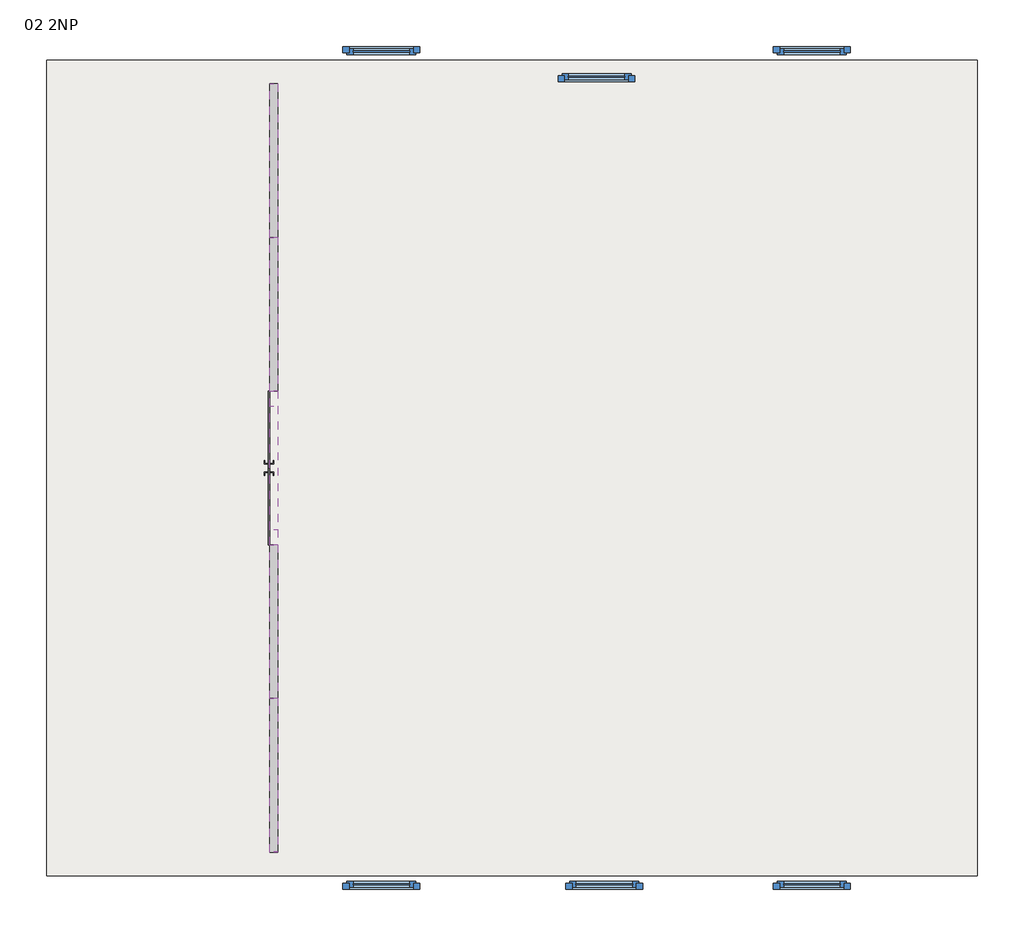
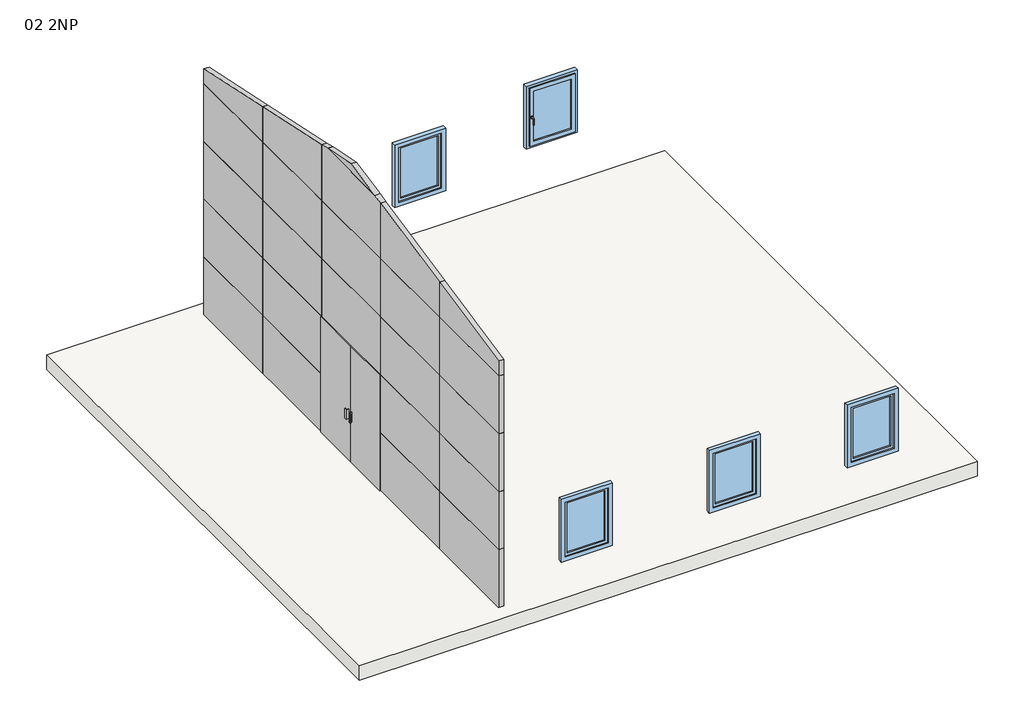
# One storey: 25 plates, 6 windows, 1 slab.
"""IFC4 building model written with IfcOpenShell, lengths in millimetres."""

import ifcopenshell
import ifcopenshell.guid

model = None  # the IFC model being written
_history = None  # IfcOwnerHistory: only IFC2X3 demands one
_inside = {}  # id of a spatial element -> (the spatial element, [elements in it])
_under = {}  # id of a project, library or spatial element -> (it, [spatial elements below it])
_declared = {}  # id of a project -> (the project, [libraries it declares])
_typed = {}  # id of a type object -> (the type object, [elements of that type])
_made_of = {}  # id of a material, layer set ... -> (it, [elements and type objects made of it])


def new_model(schema):
    """Start an empty IFC model of exactly this schema.

    Asked for "IFC4X3", IfcOpenShell would pick the latest addendum, in which some entities
    have other attributes; the version numbers below select the first issue.
    IFC2X3 requires an IfcOwnerHistory on every rooted entity: one is made here for all.
    """
    global model, _history
    if schema == "IFC4X3":
        model = ifcopenshell.file(schema_version=(4, 3, 0, 0))
    else:
        model = ifcopenshell.file(schema=schema)
    _inside.clear()
    _under.clear()
    _declared.clear()
    _typed.clear()
    _made_of.clear()
    _history = None
    if model.schema == "IFC2X3":
        org = make("IfcOrganization", Name="unknown")
        user = make(
            "IfcPersonAndOrganization",
            ThePerson=make("IfcPerson", FamilyName="unknown"),
            TheOrganization=org,
        )
        app = make(
            "IfcApplication",
            ApplicationDeveloper=org,
            Version="unknown",
            ApplicationFullName="unknown",
            ApplicationIdentifier="unknown",
        )
        _history = make(
            "IfcOwnerHistory",
            OwningUser=user,
            OwningApplication=app,
            ChangeAction="ADDED",
            CreationDate=0,
        )
    return model


def make(cls, **values):
    """One entity of the class cls with the attributes given. An attribute that is None is left unset."""
    return model.create_entity(
        cls, **{name: value for name, value in values.items() if value is not None}
    )


def rooted(cls, **values):
    """An entity with a GlobalId (a new one), such as an element, a storey or a relation."""
    return make(cls, GlobalId=ifcopenshell.guid.new(), OwnerHistory=_history, **values)


def si_unit(unit_type, name, prefix=None):
    """IfcSIUnit, for example si_unit("LENGTHUNIT", "METRE", prefix="MILLI")."""
    return make("IfcSIUnit", UnitType=unit_type, Prefix=prefix, Name=name)


def assignment(units):
    """IfcUnitAssignment: the units of a project."""
    return None if units is None else make("IfcUnitAssignment", Units=units)


def point(xyz):
    """IfcCartesianPoint."""
    return None if xyz is None else make("IfcCartesianPoint", Coordinates=xyz)


def direction(xyz):
    """IfcDirection."""
    return None if xyz is None else make("IfcDirection", DirectionRatios=xyz)


def frame(location, z_axis=None, x_axis=None):
    """IfcAxis2Placement3D, a coordinate frame: its origin and axes. An axis left out is left unset."""
    return make(
        "IfcAxis2Placement3D",
        Location=point(location),
        Axis=direction(z_axis),
        RefDirection=direction(x_axis),
    )


def frame_2d(location, x_axis=None):
    """IfcAxis2Placement2D, a coordinate frame in the plane: its origin and x axis."""
    return make(
        "IfcAxis2Placement2D", Location=point(location), RefDirection=direction(x_axis)
    )


def origin():
    """The frame at (0, 0, 0) with its axes left unset."""
    return frame((0.0, 0.0, 0.0))


def origin_with_axes():
    """The frame at (0, 0, 0) with the z axis (0, 0, 1) and the x axis (1, 0, 0) written out."""
    return frame((0.0, 0.0, 0.0), z_axis=(0.0, 0.0, 1.0), x_axis=(1.0, 0.0, 0.0))


def place(relative_to, where):
    """IfcLocalPlacement: puts the frame where relative to a parent placement (None: the world)."""
    return make(
        "IfcLocalPlacement", PlacementRelTo=relative_to, RelativePlacement=where
    )


def context(
    kind, dimensions, precision=None, world=None, true_north=None, identifier=None
):
    """IfcGeometricRepresentationContext, for example the 3D "Model" context."""
    return make(
        "IfcGeometricRepresentationContext",
        ContextIdentifier=identifier,
        ContextType=kind,
        CoordinateSpaceDimension=dimensions,
        Precision=precision,
        WorldCoordinateSystem=world,
        TrueNorth=true_north,
    )


def project(units=None, contexts=None):
    """IfcProject with its units and contexts."""
    return rooted(
        "IfcProject",
        Name="project",
        RepresentationContexts=contexts,
        UnitsInContext=assignment(units),
    )


def spatial(cls, under=None, at=None, **own):
    """A site, building, storey or space (cls), placed at a placement, below another one or the project."""
    s = rooted(cls, ObjectPlacement=at, **own)
    if under is not None:
        _under.setdefault(under.id(), (under, []))[1].append(s)
    return s


def polyline(points):
    """IfcPolyline through the points."""
    return make("IfcPolyline", Points=[point(p) for p in points])


def circle_curve(where, radius):
    """IfcCircle in the frame where."""
    return make("IfcCircle", Position=where, Radius=radius)


def ellipse_curve(where, semi_axis1, semi_axis2):
    """IfcEllipse in the frame where."""
    return make(
        "IfcEllipse", Position=where, SemiAxis1=semi_axis1, SemiAxis2=semi_axis2
    )


def trimmed(basis, trim1, trim2, sense, master):
    """IfcTrimmedCurve: the piece of a basis curve between two trims."""
    return make(
        "IfcTrimmedCurve",
        BasisCurve=basis,
        Trim1=trim1,
        Trim2=trim2,
        SenseAgreement=sense,
        MasterRepresentation=master,
    )


def segment(curve, same_sense, transition):
    """IfcCompositeCurveSegment."""
    return make(
        "IfcCompositeCurveSegment",
        Transition=transition,
        SameSense=same_sense,
        ParentCurve=curve,
    )


def composite_curve(segments, self_intersect=None):
    """IfcCompositeCurve: segments joined end to end."""
    return make("IfcCompositeCurve", Segments=segments, SelfIntersect=self_intersect)


def outline(outer, holes=None, kind="AREA"):
    """IfcArbitraryClosedProfileDef: a profile drawn as a closed curve; with holes, ...WithVoids."""
    if holes is None:
        return make("IfcArbitraryClosedProfileDef", ProfileType=kind, OuterCurve=outer)
    return make(
        "IfcArbitraryProfileDefWithVoids",
        ProfileType=kind,
        OuterCurve=outer,
        InnerCurves=holes,
    )


def extrude(swept, where, along, depth):
    """IfcExtrudedAreaSolid: the profile swept, set in the frame where, extruded along a direction by depth."""
    return make(
        "IfcExtrudedAreaSolid",
        SweptArea=swept,
        Position=where,
        ExtrudedDirection=direction(along),
        Depth=depth,
    )


def faces_of(points, faces, orient=None, outer=None):
    """IfcFace entities. A face is a list of loops; a loop is a list of indices into points, from 0.

    orient and outer hold one flag for each loop. By default every Orientation is true, the
    first loop of a face is its IfcFaceOuterBound and the others are IfcFaceBound.
    """
    made = []
    for i, loops in enumerate(faces):
        bounds = []
        for j, loop in enumerate(loops):
            is_outer = j == 0 if outer is None else outer[i][j]
            bounds.append(
                make(
                    "IfcFaceOuterBound" if is_outer else "IfcFaceBound",
                    Bound=make("IfcPolyLoop", Polygon=[points[k] for k in loop]),
                    Orientation=True if orient is None else orient[i][j],
                )
            )
        made.append(make("IfcFace", Bounds=bounds))
    return made


def faceted_brep(points, faces, orient=None, outer=None, voids=None):
    """IfcFacetedBrep: a solid bounded by flat faces; with voids (closed shells), ...WithVoids."""
    shared = [point(p) for p in points]
    hull = make("IfcClosedShell", CfsFaces=faces_of(shared, faces, orient, outer))
    if voids is None:
        return make("IfcFacetedBrep", Outer=hull)
    return make(
        "IfcFacetedBrepWithVoids",
        Outer=hull,
        Voids=[
            make(cls, CfsFaces=faces_of(shared, fs, o, b)) for cls, fs, o, b in voids
        ],
    )


def shape(context_of_items, identifier, shape_type, items):
    """IfcShapeRepresentation: the items that make up one representation, for example the "Body"."""
    return make(
        "IfcShapeRepresentation",
        ContextOfItems=context_of_items,
        RepresentationIdentifier=identifier,
        RepresentationType=shape_type,
        Items=items,
    )


def source(mapping_origin, context_of_items, identifier, shape_type, items):
    """IfcRepresentationMap: a shape defined once, which mapped items show again and again."""
    return make(
        "IfcRepresentationMap",
        MappingOrigin=mapping_origin,
        MappedRepresentation=shape(context_of_items, identifier, shape_type, items),
    )


def transform(
    local_origin,
    x_axis=None,
    y_axis=None,
    z_axis=None,
    scale=None,
    scale2=None,
    scale3=None,
    uniform=True,
):
    """IfcCartesianTransformationOperator3D, or its non-uniform kind. x_axis, y_axis, z_axis: its Axis1, 2, 3."""
    if uniform:
        return make(
            "IfcCartesianTransformationOperator3D",
            Axis1=direction(x_axis),
            Axis2=direction(y_axis),
            LocalOrigin=point(local_origin),
            Scale=scale,
            Axis3=direction(z_axis),
        )
    return make(
        "IfcCartesianTransformationOperator3DnonUniform",
        Axis1=direction(x_axis),
        Axis2=direction(y_axis),
        LocalOrigin=point(local_origin),
        Scale=scale,
        Axis3=direction(z_axis),
        Scale2=scale2,
        Scale3=scale3,
    )


def mapped(mapping_source, mapping_target):
    """IfcMappedItem: shows the shape of a source again, moved by a transform."""
    return make(
        "IfcMappedItem", MappingSource=mapping_source, MappingTarget=mapping_target
    )


def made_of(thing, what):
    """Note that an element or type object is made of a material, layer set ...; save() writes the relation."""
    if what is not None:
        _made_of.setdefault(what.id(), (what, []))[1].append(thing)
    return thing


def element(
    cls,
    number,
    at=None,
    inside=None,
    cuts=None,
    type_object=None,
    material=None,
    context=None,
    identifier="Body",
    shape_type=None,
    held_by="IfcProductDefinitionShape",
    body=None,
    shapes=None,
    **own,
):
    """One element of the class cls, such as IfcWall. Its Tag is "e" and its number.

    at: its placement. inside: the storey or other place that contains it. cuts: it is an
    opening in that element (IfcRelVoidsElement). A single representation is given by context,
    identifier, shape_type and body (its items); several are given by shapes. held_by: the class
    of the entity that holds the representations. save() writes the other relations.
    """
    e = rooted(cls, Tag="e%d" % number, ObjectPlacement=at, **own)
    if body is not None:
        shapes = [shape(context, identifier, shape_type, body)]
    if shapes is not None:
        e.Representation = make(held_by, Representations=shapes)
    if inside is not None:
        _inside.setdefault(inside.id(), (inside, []))[1].append(e)
    if cuts is not None:
        rooted(
            "IfcRelVoidsElement", RelatingBuildingElement=cuts, RelatedOpeningElement=e
        )
    if type_object is not None:
        _typed.setdefault(type_object.id(), (type_object, []))[1].append(e)
    return made_of(e, material)


def aggregate(whole, parts):
    """IfcRelAggregates: a whole, such as a stair, and the parts it consists of."""
    return rooted("IfcRelAggregates", RelatingObject=whole, RelatedObjects=parts)


def save(model, path):
    """Write the relations noted so far, then the file.

    IfcRelAggregates (storeys below a building ...), IfcRelContainedInSpatialStructure (elements
    in a storey), IfcRelDefinesByType, IfcRelAssociatesMaterial and IfcRelDeclares: one each for
    every whole, place, type object, material and project.
    """
    for whole, parts in _under.values():
        aggregate(whole, parts)
    for where, things in _inside.values():
        rooted(
            "IfcRelContainedInSpatialStructure",
            RelatedElements=things,
            RelatingStructure=where,
        )
    for kind, things in _typed.values():
        rooted("IfcRelDefinesByType", RelatedObjects=things, RelatingType=kind)
    for what, things in _made_of.values():
        rooted("IfcRelAssociatesMaterial", RelatedObjects=things, RelatingMaterial=what)
    for by, libraries in _declared.values():
        rooted("IfcRelDeclares", RelatingContext=by, RelatedDefinitions=libraries)
    model.write(path)


def plane_surface(at):
    """IfcPlane: the flat surface through the origin of the frame at, square to its z axis."""
    return make("IfcPlane", Position=at)


def cylinder_surface(at, radius):
    """IfcCylindricalSurface: all points at the distance radius from the z axis of the frame at."""
    return make("IfcCylindricalSurface", Position=at, Radius=radius)


def advanced_brep(points, edges, surfaces, faces):
    """IfcAdvancedBrep: a solid bounded by faces that lie on surfaces and meet in shared edges.

    An edge is (start, end): straight between two places in points (the first is 0);
    or (start, end, curve); or (start, end, curve, False) where it runs against its curve.
    A face is (place in surfaces, loops), or (place, loops, False) where it looks against
    its surface's normal. A loop lists edges by number (the first is 1), with a minus sign
    where the edge is run from its end to its start. The first loop is the outer one.
    """
    corners = [point(p) for p in points]
    vertices = [make("IfcVertexPoint", VertexGeometry=c) for c in corners]
    made = []
    for start, end, *more in edges:
        made.append(
            make(
                "IfcEdgeCurve",
                EdgeStart=vertices[start],
                EdgeEnd=vertices[end],
                EdgeGeometry=more[0] if more else make("IfcPolyline", Points=[corners[start], corners[end]]),
                SameSense=more[1] if len(more) > 1 else True,
            )
        )
    hull = []
    for where, loops, *sense in faces:
        bounds = []
        for j, loop in enumerate(loops):
            ring = [make("IfcOrientedEdge", EdgeElement=made[abs(k) - 1], Orientation=k > 0) for k in loop]
            bounds.append(
                make(
                    "IfcFaceOuterBound" if j == 0 else "IfcFaceBound",
                    Bound=make("IfcEdgeLoop", EdgeList=ring),
                    Orientation=True,
                )
            )
        hull.append(make("IfcAdvancedFace", Bounds=bounds, FaceSurface=surfaces[where], SameSense=sense[0] if sense else True))
    return make("IfcAdvancedBrep", Outer=make("IfcClosedShell", CfsFaces=hull))


def plate_c616a44a(model_context):
    return source(origin(), model_context, "Body", "SweptSolid", [
        extrude(outline(polyline([(-1.5875, 30.95), (-1000.0, 30.95), (-1000.0, 50.0), (-1.5875, 50.0), (-1.5875, 30.95)])), origin_with_axes(), (0.0, 0.0, 1.0), 2400.0),
        extrude(outline(polyline([(1000.0, 30.95), (1.5875, 30.95), (1.5875, 50.0), (1000.0, 50.0), (1000.0, 30.95)])), origin_with_axes(), (0.0, 0.0, 1.0), 2400.0),
        extrude(outline(polyline([(-50.8, 100.8), (-50.8, 50.0), (-57.15, 50.0), (-57.15, 94.45), (-95.25, 94.45), (-95.25, 100.8), (-50.8, 100.8)])), frame((0.0, 0.0, 863.6), z_axis=(0.0, 0.0, 1.0), x_axis=(1.0, 0.0, 0.0)), (0.0, 0.0, 1.0), 203.2),
        extrude(outline(polyline([(50.8, 100.8), (95.25, 100.8), (95.25, 94.45), (57.15, 94.45), (57.15, 50.0), (50.8, 50.0), (50.8, 100.8)])), frame((0.0, 0.0, 863.6), z_axis=(0.0, 0.0, 1.0), x_axis=(1.0, 0.0, 0.0)), (0.0, 0.0, 1.0), 203.2),
        extrude(outline(polyline([(-50.8, -19.85), (-95.25, -19.85), (-95.25, -13.5), (-57.15, -13.5), (-57.15, 30.95), (-50.8, 30.95), (-50.8, -19.85)])), frame((0.0, 0.0, 863.6), z_axis=(0.0, 0.0, 1.0), x_axis=(1.0, 0.0, 0.0)), (0.0, 0.0, 1.0), 203.2),
        extrude(outline(polyline([(50.8, -19.85), (50.8, 30.95), (57.15, 30.95), (57.15, -13.5), (95.25, -13.5), (95.25, -19.85), (50.8, -19.85)])), frame((0.0, 0.0, 863.6), z_axis=(0.0, 0.0, 1.0), x_axis=(1.0, 0.0, 0.0)), (0.0, 0.0, 1.0), 203.2),
    ])


def sklo_1a5bc644(model_context):
    return source(origin(), model_context, "Body", "SweptSolid", [
        extrude(outline(polyline([(1000.0, 50.0), (-1000.0, 50.0), (-1000.0, 150.0), (1000.0, 150.0), (1000.0, 50.0)])), origin_with_axes(), (0.0, 0.0, 1.0), 1200.0),
    ])


def sklo_a22fa24e(model_context):
    return source(origin(), model_context, "Body", "SweptSolid", [
        extrude(outline(polyline([(0.0, -1000.0), (0.0, 1000.0), (733.5169698, 1000.0), (308.4038465, -1000.0), (0.0, -1000.0)])), frame((0.0, 50.0, 0.0), z_axis=(0.0, 1.0, 0.0), x_axis=(0.0, 0.0, 1.0)), (0.0, 0.0, 1.0), 100.0),
    ])


def sklo_d17d486e(model_context):
    return source(origin(), model_context, "Body", "SweptSolid", [
        extrude(outline(polyline([(0.0, -1000.0), (0.0, 1000.0), (1158.6300932, 1000.0), (733.5169698, -1000.0), (0.0, -1000.0)])), frame((0.0, 50.0, 0.0), z_axis=(0.0, 1.0, 0.0), x_axis=(0.0, 0.0, 1.0)), (0.0, 0.0, 1.0), 100.0),
    ])


def sklo_ce9b099a(model_context):
    return source(origin(), model_context, "Body", "SweptSolid", [
        extrude(outline(polyline([(0.0, -1000.0), (0.0, 1000.0), (733.5169698, 1000.0), (1158.6300932, -1000.0), (0.0, -1000.0)])), frame((0.0, 50.0, 0.0), z_axis=(0.0, 1.0, 0.0), x_axis=(0.0, 0.0, 1.0)), (0.0, 0.0, 1.0), 100.0),
    ])


def sklo_6f6820dd(model_context):
    return source(origin(), model_context, "Body", "SweptSolid", [
        extrude(outline(polyline([(0.0, -1000.0), (0.0, 1000.0), (308.4038465, 1000.0), (733.5169698, -1000.0), (0.0, -1000.0)])), frame((0.0, 50.0, 0.0), z_axis=(0.0, 1.0, 0.0), x_axis=(0.0, 0.0, 1.0)), (0.0, 0.0, 1.0), 100.0),
    ])


def sklo_655bdac8(model_context):
    return source(origin(), model_context, "Body", "SweptSolid", [
        extrude(outline(polyline([(0.0, -1000.0), (0.0, 1000.0), (1158.6300932, 1000.0), (1200.0, 805.3698906), (1200.0, -805.3698906), (1158.6300932, -1000.0), (0.0, -1000.0)])), frame((0.0, 50.0, 0.0), z_axis=(0.0, 1.0, 0.0), x_axis=(0.0, 0.0, 1.0)), (0.0, 0.0, 1.0), 100.0),
    ])


def sklo_9e8ff6f6(model_context):
    return source(origin(), model_context, "Body", "SweptSolid", [
        extrude(outline(polyline([(0.0, -805.3698906), (0.0, 805.3698906), (171.1866548, 0.0), (0.0, -805.3698906)])), frame((0.0, 50.0, 0.0), z_axis=(0.0, 1.0, 0.0), x_axis=(0.0, 0.0, 1.0)), (0.0, 0.0, 1.0), 100.0),
    ])


def window_1000x1300_4b8b3f88(model_context):
    return source(origin(), model_context, "Body", "SolidModel", [
        advanced_brep(
        [(418.5, 118.0, 1550.0), (398.5, 118.0, 1550.0), (418.5, 58.0, 1550.0), (398.5, 58.0, 1550.0), (418.5, 58.0, 1425.0), (398.5, 58.0, 1425.0)],
        [
            (0, 1, circle_curve(frame((408.5, 118.0, 1550.0), z_axis=(0.0, 1.0, 0.0), x_axis=(-1.0, 0.0, 0.0)), 10.0)),
            (1, 0, circle_curve(frame((408.5, 118.0, 1550.0), z_axis=(0.0, 1.0, 0.0), x_axis=(-1.0, 0.0, 0.0)), 10.0)),
            (0, 2),
            (2, 3, ellipse_curve(frame((408.5, 58.0, 1550.0), z_axis=(0.0, 0.7071067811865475, 0.7071067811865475), x_axis=(0.0, 0.7071067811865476, -0.7071067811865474)), 14.1421356, 10.0)),
            (3, 1),
            (3, 2, ellipse_curve(frame((408.5, 58.0, 1550.0), z_axis=(0.0, 0.7071067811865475, 0.7071067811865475), x_axis=(0.0, 0.7071067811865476, -0.7071067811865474)), 14.1421356, 10.0)),
            (4, 5, circle_curve(frame((408.5, 58.0, 1425.0), z_axis=(0.0, 0.0, -1.0), x_axis=(-1.0, 0.0, 0.0)), 10.0)),
            (5, 4, circle_curve(frame((408.5, 58.0, 1425.0), z_axis=(0.0, 0.0, -1.0), x_axis=(-1.0, 0.0, 0.0)), 10.0)),
            (2, 4),
            (5, 3),
        ],
        [
            plane_surface(frame((408.5, 118.0, 1550.0), z_axis=(0.0, 1.0, 0.0), x_axis=(1.0, 0.0, 0.0))),
            cylinder_surface(frame((408.5, 118.0, 1550.0), z_axis=(0.0, 1.0, 0.0), x_axis=(-1.0, 0.0, 0.0)), 10.0),
            plane_surface(frame((408.5, 58.0, 1425.0), z_axis=(0.0, 0.0, -1.0), x_axis=(1.0, 0.0, 0.0))),
            cylinder_surface(frame((408.5, 58.0, 1550.0), z_axis=(0.0, 0.0, 1.0), x_axis=(-1.0, 0.0, 0.0)), 10.0),
        ],
        [
            (0, [[1, 2]]),
            (1, [[-1, 3, 4, 5]]),
            (1, [[-2, -5, 6, -3]]),
            (2, [[7, 8]]),
            (3, [[-4, 9, -8, 10]]),
            (3, [[-6, -10, -7, -9]]),
        ],
    ),
        extrude(outline(composite_curve([segment(trimmed(circle_curve(frame_2d((1560.0, 408.5)), 15.0), [point((1560.0, 423.5))], [point((1575.0, 408.5))], False, "CARTESIAN"), True, "CONTINUOUS"), segment(trimmed(circle_curve(frame_2d((1560.0, 408.5)), 15.0), [point((1575.0, 408.5))], [point((1560.0, 393.5))], False, "CARTESIAN"), True, "CONTINUOUS"), segment(polyline([(1560.0, 393.5), (1540.0, 393.5)]), True, "CONTINUOUS"), segment(trimmed(circle_curve(frame_2d((1540.0, 408.5)), 15.0), [point((1540.0, 393.5))], [point((1525.0, 408.5))], False, "CARTESIAN"), True, "CONTINUOUS"), segment(trimmed(circle_curve(frame_2d((1540.0, 408.5)), 15.0), [point((1525.0, 408.5))], [point((1540.0, 423.5))], False, "CARTESIAN"), True, "CONTINUOUS"), segment(polyline([(1540.0, 423.5), (1560.0, 423.5)]), True, "CONTINUOUS")], self_intersect=False)), frame((0.0, 118.0, 0.0), z_axis=(0.0, 1.0, 0.0), x_axis=(0.0, 0.0, 1.0)), (0.0, 0.0, 1.0), 8.0),
        extrude(outline(polyline([(900.0, -500.0), (900.0, 500.0), (2200.0, 500.0), (2200.0, -500.0), (900.0, -500.0)]), holes=[polyline([(2119.0, -419.0), (2119.0, 419.0), (981.0, 419.0), (981.0, -419.0), (2119.0, -419.0)])]), frame((0.0, 152.0, 0.0), z_axis=(0.0, 1.0, 0.0), x_axis=(0.0, 0.0, 1.0)), (0.0, 0.0, 1.0), 78.0),
        extrude(outline(polyline([(368.0, 157.5), (-368.0, 157.5), (-368.0, 172.5), (368.0, 172.5), (368.0, 157.5)])), frame((0.0, 0.0, 1032.0), z_axis=(0.0, 0.0, 1.0), x_axis=(1.0, 0.0, 0.0)), (0.0, 0.0, 1.0), 1036.0),
        faceted_brep([(-419.0, 204.0, 981.0), (-419.0, 152.0, 981.0), (-419.0, 152.0, 2119.0), (-419.0, 204.0, 2119.0), (-368.0, 126.0, 1032.0), (-368.0, 204.0, 1032.0), (-368.0, 204.0, 2068.0), (-368.0, 126.0, 2068.0), (-449.0, 152.0, 951.0), (-449.0, 126.0, 951.0), (-449.0, 126.0, 2149.0), (-449.0, 152.0, 2149.0), (419.0, 152.0, 2119.0), (419.0, 204.0, 2119.0), (368.0, 204.0, 2068.0), (368.0, 126.0, 2068.0), (449.0, 126.0, 2149.0), (449.0, 152.0, 2149.0), (419.0, 152.0, 981.0), (419.0, 204.0, 981.0), (368.0, 204.0, 1032.0), (368.0, 126.0, 1032.0), (449.0, 126.0, 951.0), (449.0, 152.0, 951.0)], [[[0, 1, 2, 3]], [[4, 5, 6, 7]], [[8, 9, 10, 11]], [[3, 2, 12, 13]], [[7, 6, 14, 15]], [[11, 10, 16, 17]], [[13, 12, 18, 19]], [[15, 14, 20, 21]], [[17, 16, 22, 23]], [[19, 18, 1, 0]], [[3, 13, 19, 0], [5, 20, 14, 6]], [[21, 20, 5, 4]], [[9, 22, 16, 10], [7, 15, 21, 4]], [[23, 22, 9, 8]], [[11, 17, 23, 8], [1, 18, 12, 2]]]),
    ])


def window_1000x1300_138def9d(model_context):
    return source(origin(), model_context, "Body", "SolidModel", [
        advanced_brep(
        [(418.5, -118.0, 1550.0), (398.5, -118.0, 1550.0), (398.5, -58.0, 1550.0), (418.5, -58.0, 1550.0), (418.5, -58.0, 1425.0), (398.5, -58.0, 1425.0)],
        [
            (0, 1, circle_curve(frame((408.5, -118.0, 1550.0), z_axis=(0.0, -1.0, 0.0), x_axis=(-1.0, 0.0, 0.0)), 10.0)),
            (1, 0, circle_curve(frame((408.5, -118.0, 1550.0), z_axis=(0.0, -1.0, 0.0), x_axis=(-1.0, 0.0, 0.0)), 10.0)),
            (1, 2),
            (2, 3, ellipse_curve(frame((408.5, -58.0, 1550.0), z_axis=(0.0, -0.7071067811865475, 0.7071067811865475), x_axis=(0.0, -0.7071067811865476, -0.7071067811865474)), 14.1421356, 10.0)),
            (3, 0),
            (3, 2, ellipse_curve(frame((408.5, -58.0, 1550.0), z_axis=(0.0, -0.7071067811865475, 0.7071067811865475), x_axis=(0.0, -0.7071067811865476, -0.7071067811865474)), 14.1421356, 10.0)),
            (4, 5, circle_curve(frame((408.5, -58.0, 1425.0), z_axis=(0.0, 0.0, -1.0), x_axis=(-1.0, 0.0, 0.0)), 10.0)),
            (5, 4, circle_curve(frame((408.5, -58.0, 1425.0), z_axis=(0.0, 0.0, -1.0), x_axis=(-1.0, 0.0, 0.0)), 10.0)),
            (2, 5),
            (4, 3),
        ],
        [
            plane_surface(frame((408.5, -118.0, 1550.0), z_axis=(0.0, -1.0, 0.0), x_axis=(1.0, 0.0, 0.0))),
            cylinder_surface(frame((408.5, -118.0, 1550.0), z_axis=(0.0, -1.0, 0.0), x_axis=(-1.0, 0.0, 0.0)), 10.0),
            plane_surface(frame((408.5, -58.0, 1425.0), z_axis=(0.0, 0.0, -1.0), x_axis=(1.0, 0.0, 0.0))),
            cylinder_surface(frame((408.5, -58.0, 1550.0), z_axis=(0.0, 0.0, 1.0), x_axis=(-1.0, 0.0, 0.0)), 10.0),
        ],
        [
            (0, [[1, 2]]),
            (1, [[3, 4, 5, -2]]),
            (1, [[-5, 6, -3, -1]]),
            (2, [[7, 8]]),
            (3, [[9, -7, 10, -4]]),
            (3, [[-10, -8, -9, -6]]),
        ],
    ),
        extrude(outline(composite_curve([segment(trimmed(circle_curve(frame_2d((1560.0, 408.5)), 15.0), [point((1560.0, 423.5))], [point((1575.0, 408.5))], False, "CARTESIAN"), True, "CONTINUOUS"), segment(trimmed(circle_curve(frame_2d((1560.0, 408.5)), 15.0), [point((1575.0, 408.5))], [point((1560.0, 393.5))], False, "CARTESIAN"), True, "CONTINUOUS"), segment(polyline([(1560.0, 393.5), (1540.0, 393.5)]), True, "CONTINUOUS"), segment(trimmed(circle_curve(frame_2d((1540.0, 408.5)), 15.0), [point((1540.0, 393.5))], [point((1525.0, 408.5))], False, "CARTESIAN"), True, "CONTINUOUS"), segment(trimmed(circle_curve(frame_2d((1540.0, 408.5)), 15.0), [point((1525.0, 408.5))], [point((1540.0, 423.5))], False, "CARTESIAN"), True, "CONTINUOUS"), segment(polyline([(1540.0, 423.5), (1560.0, 423.5)]), True, "CONTINUOUS")], self_intersect=False)), frame((0.0, -126.0, 0.0), z_axis=(0.0, 1.0, 0.0), x_axis=(0.0, 0.0, 1.0)), (0.0, 0.0, 1.0), 8.0),
        extrude(outline(polyline([(2200.0, -500.0), (900.0, -500.0), (900.0, 500.0), (2200.0, 500.0), (2200.0, -500.0)]), holes=[polyline([(981.0, -419.0), (2119.0, -419.0), (2119.0, 419.0), (981.0, 419.0), (981.0, -419.0)])]), frame((0.0, -230.0, 0.0), z_axis=(0.0, 1.0, 0.0), x_axis=(0.0, 0.0, 1.0)), (0.0, 0.0, 1.0), 78.0),
        extrude(outline(polyline([(368.0, -157.5), (368.0, -172.5), (-368.0, -172.5), (-368.0, -157.5), (368.0, -157.5)])), frame((0.0, 0.0, 1032.0), z_axis=(0.0, 0.0, 1.0), x_axis=(1.0, 0.0, 0.0)), (0.0, 0.0, 1.0), 1036.0),
        faceted_brep([(-419.0, -204.0, 981.0), (-419.0, -204.0, 2119.0), (-419.0, -152.0, 2119.0), (-419.0, -152.0, 981.0), (-368.0, -126.0, 1032.0), (-368.0, -126.0, 2068.0), (-368.0, -204.0, 2068.0), (-368.0, -204.0, 1032.0), (-449.0, -152.0, 951.0), (-449.0, -152.0, 2149.0), (-449.0, -126.0, 2149.0), (-449.0, -126.0, 951.0), (419.0, -204.0, 2119.0), (419.0, -152.0, 2119.0), (368.0, -126.0, 2068.0), (368.0, -204.0, 2068.0), (449.0, -152.0, 2149.0), (449.0, -126.0, 2149.0), (419.0, -204.0, 981.0), (419.0, -152.0, 981.0), (368.0, -126.0, 1032.0), (368.0, -204.0, 1032.0), (449.0, -152.0, 951.0), (449.0, -126.0, 951.0)], [[[0, 1, 2, 3]], [[4, 5, 6, 7]], [[8, 9, 10, 11]], [[1, 12, 13, 2]], [[5, 14, 15, 6]], [[9, 16, 17, 10]], [[12, 18, 19, 13]], [[14, 20, 21, 15]], [[16, 22, 23, 17]], [[18, 0, 3, 19]], [[1, 0, 18, 12], [7, 6, 15, 21]], [[20, 4, 7, 21]], [[11, 10, 17, 23], [5, 4, 20, 14]], [[22, 8, 11, 23]], [[9, 8, 22, 16], [3, 2, 13, 19]]]),
    ])


model = new_model("IFC4")

# Units and contexts
model_context = context("Model", 3, world=origin())
ifc_project = project(units=[si_unit("LENGTHUNIT", "METRE", prefix="MILLI")], contexts=[model_context])

# Site, building, storey
site = spatial("IfcSite", under=ifc_project)
building = spatial("IfcBuilding", under=site)
storey = spatial("IfcBuildingStorey", under=building, Name="02 2NP", Elevation=3000.0)

# Plates
placement = place(None, origin())
plate_shape = plate_c616a44a(model_context)
element("IfcPlate", 1, ObjectType="Panel-DvereDvoukridle : Obv.plast - Dvoukridle", at=placement, inside=storey, context=model_context, shape_type="MappedRepresentation", body=[
    mapped(plate_shape, transform((30738.4387685, 19862.0937321, 3000.0), x_axis=(0.0, -1.0, 0.0), y_axis=(1.0, 0.0, 0.0), z_axis=(0.0, 0.0, 1.0))),
])
sklo_shape = sklo_1a5bc644(model_context)
element("IfcPlate", 2, ObjectType="Systémový panel : Sklo", at=placement, inside=storey, context=model_context, shape_type="MappedRepresentation", body=[
    mapped(sklo_shape, transform((30738.4387685, 23862.0937321, 3000.0), x_axis=(0.0, -1.0, 0.0), y_axis=(1.0, 0.0, 0.0), z_axis=(0.0, 0.0, 1.0))),
])
element("IfcPlate", 3, ObjectType="Systémový panel : Sklo", at=placement, inside=storey, context=model_context, shape_type="MappedRepresentation", body=[
    mapped(sklo_shape, transform((30738.4387685, 21862.0937321, 3000.0), x_axis=(0.0, -1.0, 0.0), y_axis=(1.0, 0.0, 0.0), z_axis=(0.0, 0.0, 1.0))),
])
element("IfcPlate", 4, ObjectType="Systémový panel : Sklo", at=placement, inside=storey, context=model_context, shape_type="MappedRepresentation", body=[
    mapped(sklo_shape, transform((30738.4387685, 17862.0937321, 3000.0), x_axis=(0.0, -1.0, 0.0), y_axis=(1.0, 0.0, 0.0), z_axis=(0.0, 0.0, 1.0))),
])
element("IfcPlate", 5, ObjectType="Systémový panel : Sklo", at=placement, inside=storey, context=model_context, shape_type="MappedRepresentation", body=[
    mapped(sklo_shape, transform((30738.4387685, 15862.0937321, 3000.0), x_axis=(0.0, -1.0, 0.0), y_axis=(1.0, 0.0, 0.0), z_axis=(0.0, 0.0, 1.0))),
])
element("IfcPlate", 6, ObjectType="Systémový panel : Sklo", at=placement, inside=storey, context=model_context, shape_type="MappedRepresentation", body=[
    mapped(sklo_shape, transform((30738.4387685, 23862.0937321, 4200.0), x_axis=(0.0, -1.0, 0.0), y_axis=(1.0, 0.0, 0.0), z_axis=(0.0, 0.0, 1.0))),
])
element("IfcPlate", 7, ObjectType="Systémový panel : Sklo", at=placement, inside=storey, context=model_context, shape_type="MappedRepresentation", body=[
    mapped(sklo_shape, transform((30738.4387685, 21862.0937321, 4200.0), x_axis=(0.0, -1.0, 0.0), y_axis=(1.0, 0.0, 0.0), z_axis=(0.0, 0.0, 1.0))),
])
element("IfcPlate", 8, ObjectType="Systémový panel : Sklo", at=placement, inside=storey, context=model_context, shape_type="MappedRepresentation", body=[
    mapped(sklo_shape, transform((30738.4387685, 17862.0937321, 4200.0), x_axis=(0.0, -1.0, 0.0), y_axis=(1.0, 0.0, 0.0), z_axis=(0.0, 0.0, 1.0))),
])
element("IfcPlate", 9, ObjectType="Systémový panel : Sklo", at=placement, inside=storey, context=model_context, shape_type="MappedRepresentation", body=[
    mapped(sklo_shape, transform((30738.4387685, 15862.0937321, 4200.0), x_axis=(0.0, -1.0, 0.0), y_axis=(1.0, 0.0, 0.0), z_axis=(0.0, 0.0, 1.0))),
])
element("IfcPlate", 10, ObjectType="Systémový panel : Sklo", at=placement, inside=storey, context=model_context, shape_type="MappedRepresentation", body=[
    mapped(sklo_shape, transform((30738.4387685, 23862.0937321, 5400.0), x_axis=(0.0, -1.0, 0.0), y_axis=(1.0, 0.0, 0.0), z_axis=(0.0, 0.0, 1.0))),
])
element("IfcPlate", 11, ObjectType="Systémový panel : Sklo", at=placement, inside=storey, context=model_context, shape_type="MappedRepresentation", body=[
    mapped(sklo_shape, transform((30738.4387685, 21862.0937321, 5400.0), x_axis=(0.0, -1.0, 0.0), y_axis=(1.0, 0.0, 0.0), z_axis=(0.0, 0.0, 1.0))),
])
element("IfcPlate", 12, ObjectType="Systémový panel : Sklo", at=placement, inside=storey, context=model_context, shape_type="MappedRepresentation", body=[
    mapped(sklo_shape, transform((30738.4387685, 19862.0937321, 5400.0), x_axis=(0.0, -1.0, 0.0), y_axis=(1.0, 0.0, 0.0), z_axis=(0.0, 0.0, 1.0))),
])
element("IfcPlate", 13, ObjectType="Systémový panel : Sklo", at=placement, inside=storey, context=model_context, shape_type="MappedRepresentation", body=[
    mapped(sklo_shape, transform((30738.4387685, 17862.0937321, 5400.0), x_axis=(0.0, -1.0, 0.0), y_axis=(1.0, 0.0, 0.0), z_axis=(0.0, 0.0, 1.0))),
])
element("IfcPlate", 14, ObjectType="Systémový panel : Sklo", at=placement, inside=storey, context=model_context, shape_type="MappedRepresentation", body=[
    mapped(sklo_shape, transform((30738.4387685, 15862.0937321, 5400.0), x_axis=(0.0, -1.0, 0.0), y_axis=(1.0, 0.0, 0.0), z_axis=(0.0, 0.0, 1.0))),
])
element("IfcPlate", 15, ObjectType="Systémový panel : Sklo", at=placement, inside=storey, context=model_context, shape_type="MappedRepresentation", body=[
    mapped(sklo_shape, transform((30738.4387685, 23862.0937321, 6600.0), x_axis=(0.0, -1.0, 0.0), y_axis=(1.0, 0.0, 0.0), z_axis=(0.0, 0.0, 1.0))),
])
element("IfcPlate", 16, ObjectType="Systémový panel : Sklo", at=placement, inside=storey, context=model_context, shape_type="MappedRepresentation", body=[
    mapped(sklo_shape, transform((30738.4387685, 21862.0937321, 6600.0), x_axis=(0.0, -1.0, 0.0), y_axis=(1.0, 0.0, 0.0), z_axis=(0.0, 0.0, 1.0))),
])
element("IfcPlate", 17, ObjectType="Systémový panel : Sklo", at=placement, inside=storey, context=model_context, shape_type="MappedRepresentation", body=[
    mapped(sklo_shape, transform((30738.4387685, 19862.0937321, 6600.0), x_axis=(0.0, -1.0, 0.0), y_axis=(1.0, 0.0, 0.0), z_axis=(0.0, 0.0, 1.0))),
])
element("IfcPlate", 18, ObjectType="Systémový panel : Sklo", at=placement, inside=storey, context=model_context, shape_type="MappedRepresentation", body=[
    mapped(sklo_shape, transform((30738.4387685, 17862.0937321, 6600.0), x_axis=(0.0, -1.0, 0.0), y_axis=(1.0, 0.0, 0.0), z_axis=(0.0, 0.0, 1.0))),
])
element("IfcPlate", 19, ObjectType="Systémový panel : Sklo", at=placement, inside=storey, context=model_context, shape_type="MappedRepresentation", body=[
    mapped(sklo_shape, transform((30738.4387685, 15862.0937321, 6600.0), x_axis=(0.0, -1.0, 0.0), y_axis=(1.0, 0.0, 0.0), z_axis=(0.0, 0.0, 1.0))),
])
sklo_2_shape = sklo_a22fa24e(model_context)
element("IfcPlate", 20, ObjectType="Systémový panel : Sklo", at=placement, inside=storey, context=model_context, shape_type="MappedRepresentation", body=[
    mapped(sklo_2_shape, transform((30738.4387685, 23862.0937321, 7800.0), x_axis=(0.0, -1.0, 0.0), y_axis=(1.0, 0.0, 0.0), z_axis=(0.0, 0.0, 1.0))),
])
sklo_3_shape = sklo_d17d486e(model_context)
element("IfcPlate", 21, ObjectType="Systémový panel : Sklo", at=placement, inside=storey, context=model_context, shape_type="MappedRepresentation", body=[
    mapped(sklo_3_shape, transform((30738.4387685, 21862.0937321, 7800.0), x_axis=(0.0, -1.0, 0.0), y_axis=(1.0, 0.0, 0.0), z_axis=(0.0, 0.0, 1.0))),
])
sklo_4_shape = sklo_ce9b099a(model_context)
element("IfcPlate", 22, ObjectType="Systémový panel : Sklo", at=placement, inside=storey, context=model_context, shape_type="MappedRepresentation", body=[
    mapped(sklo_4_shape, transform((30738.4387685, 17862.0937321, 7800.0), x_axis=(0.0, -1.0, 0.0), y_axis=(1.0, 0.0, 0.0), z_axis=(0.0, 0.0, 1.0))),
])
sklo_5_shape = sklo_6f6820dd(model_context)
element("IfcPlate", 23, ObjectType="Systémový panel : Sklo", at=placement, inside=storey, context=model_context, shape_type="MappedRepresentation", body=[
    mapped(sklo_5_shape, transform((30738.4387685, 15862.0937321, 7800.0), x_axis=(0.0, -1.0, 0.0), y_axis=(1.0, 0.0, 0.0), z_axis=(0.0, 0.0, 1.0))),
])
sklo_6_shape = sklo_655bdac8(model_context)
element("IfcPlate", 24, ObjectType="Systémový panel : Sklo", at=placement, inside=storey, context=model_context, shape_type="MappedRepresentation", body=[
    mapped(sklo_6_shape, transform((30738.4387685, 19862.0937321, 7800.0), x_axis=(0.0, -1.0, 0.0), y_axis=(1.0, 0.0, 0.0), z_axis=(0.0, 0.0, 1.0))),
])
sklo_7_shape = sklo_9e8ff6f6(model_context)
element("IfcPlate", 25, ObjectType="Systémový panel : Sklo", at=placement, inside=storey, context=model_context, shape_type="MappedRepresentation", body=[
    mapped(sklo_7_shape, transform((30738.4387685, 19862.0937321, 9000.0), x_axis=(0.0, -1.0, 0.0), y_axis=(1.0, 0.0, 0.0), z_axis=(0.0, 0.0, 1.0))),
])

# Slab
element("IfcSlab", 26, ObjectType="Standardní 300 mm", at=placement, inside=storey, context=model_context, shape_type="SweptSolid", body=[
    extrude(outline(polyline([(27883.4387685, 14552.0937321), (27883.4387685, 25172.0937321), (39993.4387685, 25172.0937321), (39993.4387685, 14552.0937321), (27883.4387685, 14552.0937321)])), frame((0.0, 0.0, 2700.0), z_axis=(0.0, 0.0, 1.0), x_axis=(1.0, 0.0, 0.0)), (0.0, 0.0, 1.0), 300.0),
])

# Windows
window_1000x1300_shape = window_1000x1300_4b8b3f88(model_context)
element("IfcWindow", 27, ObjectType="Jednokridlove rovne : 1000x1300", at=placement, inside=storey, context=model_context, shape_type="MappedRepresentation", body=[
    mapped(window_1000x1300_shape, transform((32238.4387685, 14607.0937321, 3000.0), x_axis=(-1.0, 0.0, 0.0), y_axis=(0.0, -1.0, 0.0), z_axis=(0.0, 0.0, 1.0))),
])
element("IfcWindow", 28, ObjectType="Jednokridlove rovne : 1000x1300", at=placement, inside=storey, context=model_context, shape_type="MappedRepresentation", body=[
    mapped(window_1000x1300_shape, transform((35138.4387685, 14607.0937321, 3000.0), x_axis=(-1.0, 0.0, 0.0), y_axis=(0.0, -1.0, 0.0), z_axis=(0.0, 0.0, 1.0))),
])
element("IfcWindow", 29, ObjectType="Jednokridlove rovne : 1000x1300", at=placement, inside=storey, context=model_context, shape_type="MappedRepresentation", body=[
    mapped(window_1000x1300_shape, transform((37838.4387685, 14607.0937321, 3000.0), x_axis=(-1.0, 0.0, 0.0), y_axis=(0.0, -1.0, 0.0), z_axis=(0.0, 0.0, 1.0))),
])
window_1000x1300_2_shape = window_1000x1300_138def9d(model_context)
element("IfcWindow", 30, ObjectType="Jednokridlove rovne : 1000x1300", at=placement, inside=storey, context=model_context, shape_type="MappedRepresentation", body=[
    mapped(window_1000x1300_2_shape, transform((32238.4387685, 25117.0937321, 3000.0), x_axis=(-1.0, 0.0, 0.0), y_axis=(0.0, -1.0, 0.0), z_axis=(0.0, 0.0, 1.0))),
])
element("IfcWindow", 31, ObjectType="Jednokridlove rovne : 1000x1300", at=placement, inside=storey, context=model_context, shape_type="MappedRepresentation", body=[
    mapped(window_1000x1300_2_shape, transform((37838.4387685, 25117.0937321, 3000.0), x_axis=(-1.0, 0.0, 0.0), y_axis=(0.0, -1.0, 0.0), z_axis=(0.0, 0.0, 1.0))),
])
element("IfcWindow", 32, ObjectType="Jednokridlove rovne : 1000x1300", at=placement, inside=storey, context=model_context, shape_type="MappedRepresentation", body=[
    mapped(window_1000x1300_shape, transform((35038.4387685, 25117.0937321, 3000.0), x_axis=(-1.0, 0.0, 0.0), y_axis=(0.0, -1.0, 0.0), z_axis=(0.0, 0.0, 1.0))),
])

save(model, "model.ifc")
